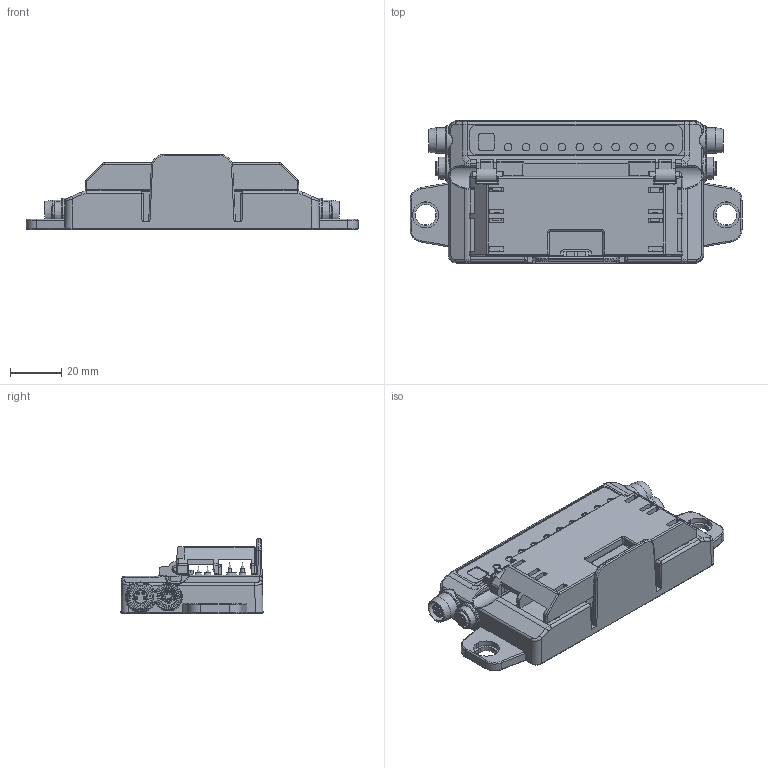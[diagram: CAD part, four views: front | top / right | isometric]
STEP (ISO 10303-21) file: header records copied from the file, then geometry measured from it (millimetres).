
FILE_DESCRIPTION(/* description */ (''),/* implementation_level */ '2;1');
FILE_NAME(/* name */ '内驱IP67-4.2.stp',/* time_stamp */ '2026-03-31T09:57:06+08:00',/* author */ (''),/* organization */ (''),/* preprocessor_version */ 'ST-DEVELOPER v19.4',/* originating_system */ 'SIEMENS PLM Software NX2212.7001',/* authorisation */ '');
FILE_SCHEMA (('AUTOMOTIVE_DESIGN { 1 0 10303 214 3 1 1 1 }'));
Products named in the file (1): IP67-4.2_stp_objects
Bounding box: 129.63 x 55.48 x 29.3 mm (x, y, z)
Volume: 90530.8 mm3; surface area: 37750.1 mm2
Topology: 10 solids, 44 shells, 2115 faces, 5546 edges, 3589 vertices
Faces by surface type: plane 888, cylinder 859, cone 184, bspline 76, torus 58, revolution 32, sphere 18
Full cylindrical faces by diameter (mm): 0.6 x2, 0.8 x10, 1 x11, 1.06 x10, 1.1 x10, 1.25 x4, 1.3 x10, 1.7 x4, 2.95 x2, 3 x10, 7.15 x2, 7.2 x4, 8 x2, 8.8 x2, 8.85 x2, 9 x2, 10 x2, 10.05 x2
Entity records: 69849 total; most frequent: CARTESIAN_POINT 16672, ORIENTED_EDGE 10488, DIRECTION 9552, EDGE_CURVE 5244, AXIS2_PLACEMENT_3D 3539, VERTEX_POINT 3507, EDGE_LOOP 2469, LINE 2442
